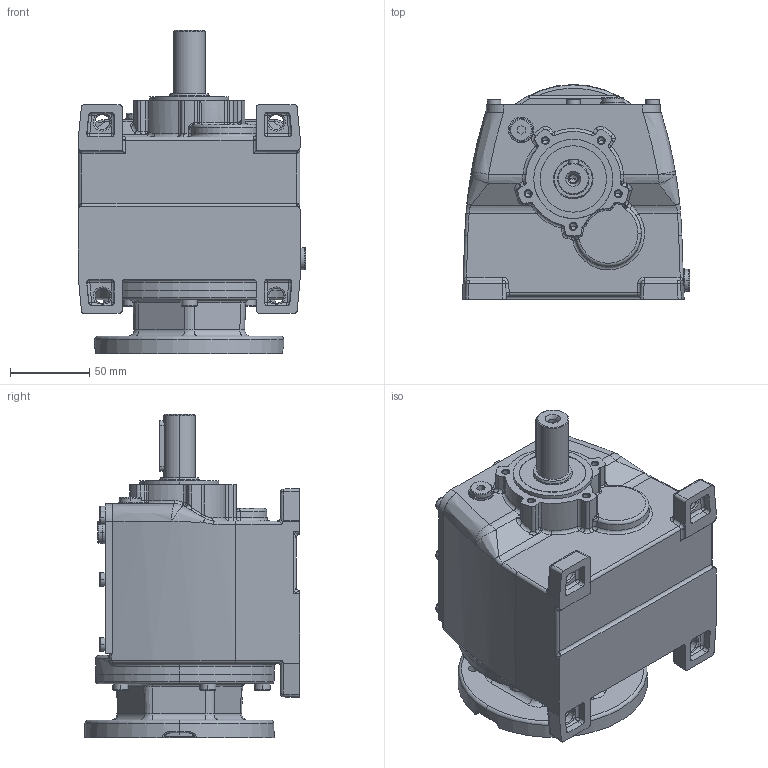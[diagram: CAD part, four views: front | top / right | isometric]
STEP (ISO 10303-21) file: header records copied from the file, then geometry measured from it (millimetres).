
FILE_DESCRIPTION (( 'STEP AP214' ), '1' );
FILE_NAME ('MTC22A-80-100.STEP', '2006-05-03T08:13:28', ( '' ), ( '' ), 'SwSTEP 2.0', 'SolidWorks 2004146', '' );
FILE_SCHEMA (( 'AUTOMOTIVE_DESIGN' ));
Length unit declared in the file: millimetre
Products named in the file (4): Skrin MTC2_A_MTC22_AP80; D6912_Šroub DIN 6912 - M6x20; pøíruba d55 MRT60a_pøíruba 80-100-120; MTC22A-80-100
Assembly tree (8 placements, depth 2):
  MTC22A-80-100
    pøíruba d55 MRT60a_pøíruba 80-100-120
    D6912_Šroub DIN 6912 - M6x20  x6
    Skrin MTC2_A_MTC22_AP80
Bounding box: 143.57 x 136 x 204.5 mm (x, y, z)
Volume: 1911488.4 mm3; surface area: 149571.1 mm2
Topology: 8 solids, 8 shells, 1412 faces, 3303 edges, 1930 vertices
Faces by surface type: torus 366, plane 366, cylinder 340, cone 214, bspline 100, sphere 26
Entity records: 90428 total; most frequent: CARTESIAN_POINT 58734, DIRECTION 6347, ORIENTED_EDGE 5850, EDGE_CURVE 2925, AXIS2_PLACEMENT_3D 2674, VERTEX_POINT 1772, CIRCLE 1536, EDGE_LOOP 1325
